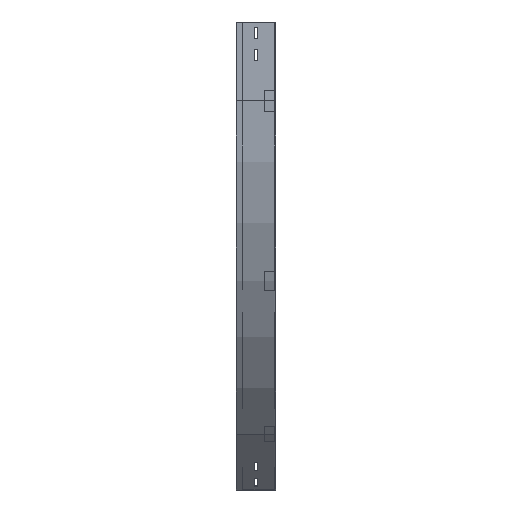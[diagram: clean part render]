
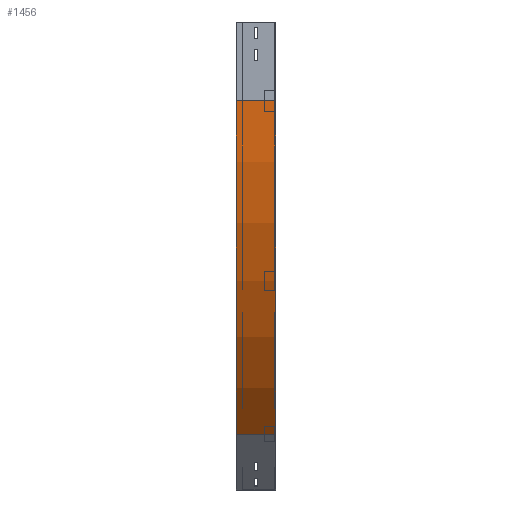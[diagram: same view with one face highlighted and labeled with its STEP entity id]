
A CAD part, left-side view. The second image highlights one B-rep face of the part: STEP entity #1456.
In plain terms, the highlighted cylindrical face has radius 900 mm (diameter 1800 mm), a partial arc.
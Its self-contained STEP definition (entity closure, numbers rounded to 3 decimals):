
#61 = CARTESIAN_POINT ( 'NONE',  ( 0., 0., -150. ) ) ;
#317 = DIRECTION ( 'NONE',  ( 0., -1., 0. ) ) ;
#336 = CARTESIAN_POINT ( 'NONE',  ( 900., 0., -150. ) ) ;
#399 = VERTEX_POINT ( 'NONE', #428 ) ;
#428 = CARTESIAN_POINT ( 'NONE',  ( 0., 0., -150. ) ) ;
#539 = EDGE_LOOP ( 'NONE', ( #595, #2391, #1085, #551 ) ) ;
#551 = ORIENTED_EDGE ( 'NONE', *, *, #3776, .T. ) ;
#595 = ORIENTED_EDGE ( 'NONE', *, *, #1438, .F. ) ;
#662 = VECTOR ( 'NONE', #1535, 1000. ) ;
#824 = CARTESIAN_POINT ( 'NONE',  ( 900., 75., -150. ) ) ;
#936 = DIRECTION ( 'NONE',  ( 0., -1., 0. ) ) ;
#973 = VECTOR ( 'NONE', #2392, 1000. ) ;
#1017 = CIRCLE ( 'NONE', #2362, 900. ) ;
#1085 = ORIENTED_EDGE ( 'NONE', *, *, #1254, .T. ) ;
#1254 = EDGE_CURVE ( 'NONE', #2267, #3538, #1017, .T. ) ;
#1286 = LINE ( 'NONE', #3639, #662 ) ;
#1386 = CARTESIAN_POINT ( 'NONE',  ( 263.604, 0., -786.396 ) ) ;
#1438 = EDGE_CURVE ( 'NONE', #399, #1697, #1929, .T. ) ;
#1456 = ADVANCED_FACE ( 'NONE', ( #3283 ), #1502, .T. ) ;
#1502 = CYLINDRICAL_SURFACE ( 'NONE', #3747, 900. ) ;
#1535 = DIRECTION ( 'NONE',  ( 0., -1., 0. ) ) ;
#1697 = VERTEX_POINT ( 'NONE', #1386 ) ;
#1702 = CARTESIAN_POINT ( 'NONE',  ( 263.604, 75., -786.396 ) ) ;
#1736 = CARTESIAN_POINT ( 'NONE',  ( 0., 75., -150. ) ) ;
#1929 = CIRCLE ( 'NONE', #2240, 900. ) ;
#2009 = DIRECTION ( 'NONE',  ( 0., -1., 0. ) ) ;
#2240 = AXIS2_PLACEMENT_3D ( 'NONE', #2437, #936, #3035 ) ;
#2267 = VERTEX_POINT ( 'NONE', #1736 ) ;
#2362 = AXIS2_PLACEMENT_3D ( 'NONE', #824, #2009, #3779 ) ;
#2391 = ORIENTED_EDGE ( 'NONE', *, *, #3827, .F. ) ;
#2392 = DIRECTION ( 'NONE',  ( 0., -1., 0. ) ) ;
#2437 = CARTESIAN_POINT ( 'NONE',  ( 900., 0., -150. ) ) ;
#2735 = DIRECTION ( 'NONE',  ( 0., 0., -1. ) ) ;
#3035 = DIRECTION ( 'NONE',  ( -1., 0., 0. ) ) ;
#3283 = FACE_OUTER_BOUND ( 'NONE', #539, .T. ) ;
#3538 = VERTEX_POINT ( 'NONE', #1702 ) ;
#3597 = LINE ( 'NONE', #61, #973 ) ;
#3639 = CARTESIAN_POINT ( 'NONE',  ( 263.604, 0., -786.396 ) ) ;
#3747 = AXIS2_PLACEMENT_3D ( 'NONE', #336, #317, #2735 ) ;
#3776 = EDGE_CURVE ( 'NONE', #3538, #1697, #1286, .T. ) ;
#3779 = DIRECTION ( 'NONE',  ( -1., 0., 0. ) ) ;
#3827 = EDGE_CURVE ( 'NONE', #2267, #399, #3597, .T. ) ;
